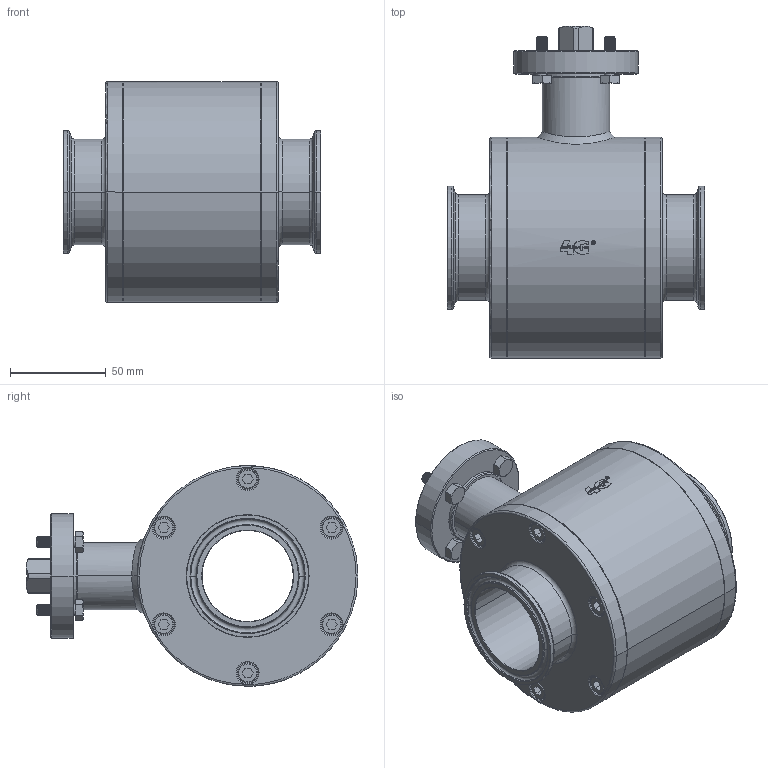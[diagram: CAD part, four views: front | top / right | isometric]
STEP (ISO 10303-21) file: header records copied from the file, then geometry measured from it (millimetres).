
FILE_DESCRIPTION((''),'2;1');
FILE_NAME('11303063810_SW0001','2025-05-16T08:28:24',('tecnico2'),('CDM Tecnoconsulting'),'CREO PARAMETRIC BY PTC INC, 2024063','CREO PARAMETRIC BY PTC INC, 2024063','');
FILE_SCHEMA(('CONFIG_CONTROL_DESIGN','SHAPE_APPEARANCE_LAYERS_GROUPS'));
Length unit declared in the file: millimetre
Products named in the file (1): 11303063810_SW0001
Bounding box: 134 x 173 x 115 mm (x, y, z)
Volume: 778503.7 mm3; surface area: 164932.3 mm2
Topology: 5 solids, 5 shells, 1059 faces, 2666 edges, 1671 vertices
Faces by surface type: cylinder 341, plane 317, cone 154, bspline 105, torus 82, extrusion 56, sphere 4
Entity records: 101652 total; most frequent: CARTESIAN_POINT 69394, ORIENTED_EDGE 5316, DIRECTION 4407, PRESENTATION_STYLE_ASSIGNMENT 2691, STYLED_ITEM 2663, CURVE_STYLE 2658, EDGE_CURVE 2658, VERTEX_POINT 1671
